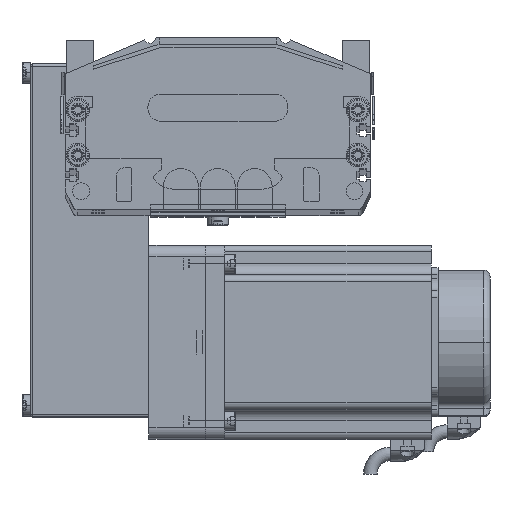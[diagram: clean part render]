
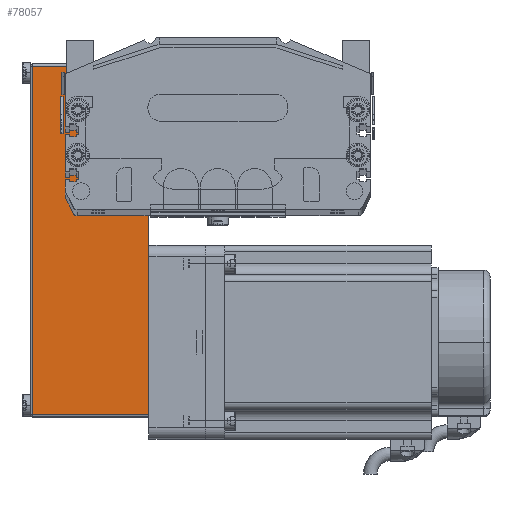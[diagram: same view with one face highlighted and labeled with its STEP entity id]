
A CAD part, top view. The second image highlights one B-rep face of the part: STEP entity #78057.
In plain terms, the highlighted planar face has unit normal (0, 0, 1) as drawn and (0, -1, 0) by its records, which use the part's own axes.
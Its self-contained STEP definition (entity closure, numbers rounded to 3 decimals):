
#34852 = CARTESIAN_POINT ( 'NONE',  ( -123.2, -40., 0. ) ) ;
#34858 = DIRECTION ( 'NONE',  ( -1., 0., 0. ) ) ;
#34859 = DIRECTION ( 'NONE',  ( 0., 1., 0. ) ) ;
#34860 = CARTESIAN_POINT ( 'NONE',  ( 32., -40., 52.5 ) ) ;
#34861 = CARTESIAN_POINT ( 'NONE',  ( 31., -40., 52.5 ) ) ;
#34863 = LINE ( 'NONE', #34861, #34967 ) ;
#34868 = DIRECTION ( 'NONE',  ( -1., 0., 0. ) ) ;
#34874 = CARTESIAN_POINT ( 'NONE',  ( 32., -40., 51.5 ) ) ;
#34876 = LINE ( 'NONE', #34874, #34908 ) ;
#34885 = CARTESIAN_POINT ( 'NONE',  ( -123.2, -40., 51.5 ) ) ;
#34890 = AXIS2_PLACEMENT_3D ( 'NONE', #34860, #34859, #34858 ) ;
#34896 = PLANE ( 'NONE',  #34890 ) ;
#34900 = FACE_OUTER_BOUND ( 'NONE', #78059, .T. ) ;
#34906 = CARTESIAN_POINT ( 'NONE',  ( 31., -40., 51.5 ) ) ;
#34908 = VECTOR ( 'NONE', #34868, 1000. ) ;
#34965 = DIRECTION ( 'NONE',  ( 0., 0., 1. ) ) ;
#34967 = VECTOR ( 'NONE', #34965, 1000. ) ;
#36532 = CARTESIAN_POINT ( 'NONE',  ( 31., -40., 0. ) ) ;
#36603 = DIRECTION ( 'NONE',  ( 0., 0., -1. ) ) ;
#36604 = VECTOR ( 'NONE', #36603, 1000. ) ;
#36609 = CARTESIAN_POINT ( 'NONE',  ( -123.2, -40., 52.5 ) ) ;
#36610 = LINE ( 'NONE', #36609, #36604 ) ;
#65041 = DIRECTION ( 'NONE',  ( 1., 0., 0. ) ) ;
#65042 = VECTOR ( 'NONE', #65041, 1000. ) ;
#65044 = CARTESIAN_POINT ( 'NONE',  ( 32., -40., 0. ) ) ;
#65059 = LINE ( 'NONE', #65044, #65042 ) ;
#77723 = EDGE_CURVE ( 'NONE', #78035, #78243, #65059, .T. ) ;
#78013 = ORIENTED_EDGE ( 'NONE', *, *, #77723, .T. ) ;
#78017 = ORIENTED_EDGE ( 'NONE', *, *, #78058, .T. ) ;
#78035 = VERTEX_POINT ( 'NONE', #34852 ) ;
#78053 = VERTEX_POINT ( 'NONE', #34885 ) ;
#78054 = VERTEX_POINT ( 'NONE', #34906 ) ;
#78056 = EDGE_CURVE ( 'NONE', #78054, #78053, #34876, .T. ) ;
#78057 = ADVANCED_FACE ( 'NONE', ( #34900 ), #34896, .F. ) ;
#78058 = EDGE_CURVE ( 'NONE', #78243, #78054, #34863, .T. ) ;
#78059 = EDGE_LOOP ( 'NONE', ( #78013, #78017, #78265, #78277 ) ) ;
#78243 = VERTEX_POINT ( 'NONE', #36532 ) ;
#78265 = ORIENTED_EDGE ( 'NONE', *, *, #78056, .T. ) ;
#78274 = EDGE_CURVE ( 'NONE', #78053, #78035, #36610, .T. ) ;
#78277 = ORIENTED_EDGE ( 'NONE', *, *, #78274, .T. ) ;
